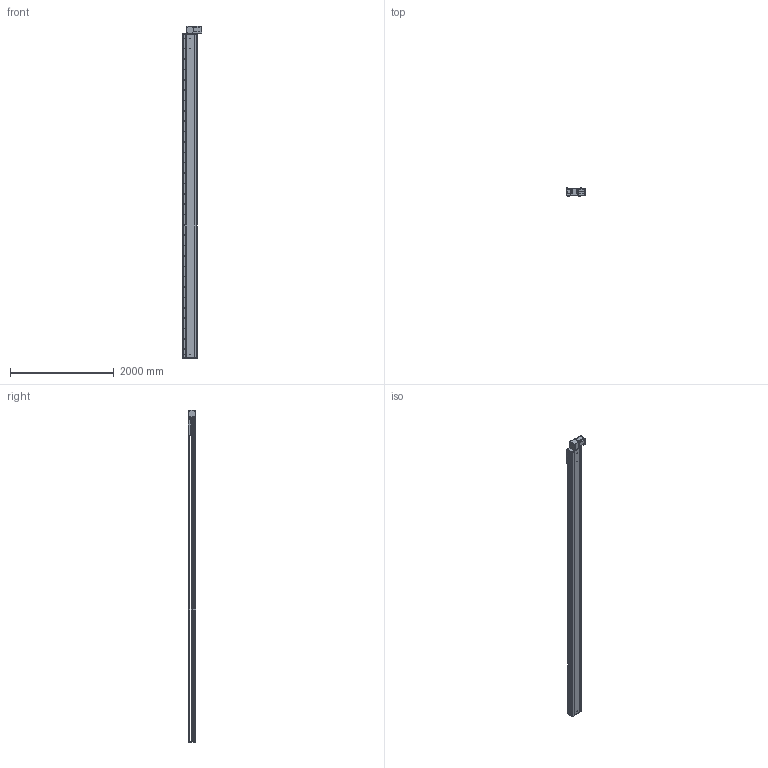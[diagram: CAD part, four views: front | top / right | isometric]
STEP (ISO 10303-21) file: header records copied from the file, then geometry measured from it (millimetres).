
FILE_DESCRIPTION (( 'STEP AP214' ), '1' );
FILE_NAME ('RTB28S-XX-5800-BL-M100-XX-C4.STEP', '2025-12-22T02:58:32', ( '' ), ( '' ), 'SwSTEP 2.0', 'SolidWorks 2018', '' );
FILE_SCHEMA (( 'AUTOMOTIVE_DESIGN' ));
Length unit declared in the file: millimetre
Products named in the file (4): RTB28S-GY-008^RTB28S-XX-XX-BL-M100-XX-C4; RTB28S-GY-011^RTB28S-XX-XX-BL-M100-XX-C4; RTB28S-XX-5800-BL-M100-XX-C4; RTB28S-GY-004^RTB28S-XX-XX-BL-M100-XX-C4
Assembly tree (3 placements, depth 2):
  RTB28S-XX-5800-BL-M100-XX-C4
    RTB28S-GY-011^RTB28S-XX-XX-BL-M100-XX-C4
    RTB28S-GY-004^RTB28S-XX-XX-BL-M100-XX-C4
    RTB28S-GY-008^RTB28S-XX-XX-BL-M100-XX-C4
Bounding box: 380.7 x 145 x 6407 mm (x, y, z)
Volume: 105203237.9 mm3; surface area: 9683093.3 mm2
Topology: 3 solids, 4 shells, 1028 faces, 2808 edges, 1808 vertices
Faces by surface type: cylinder 551, plane 393, cone 80, torus 4
Entity records: 41177 total; most frequent: CARTESIAN_POINT 8602, DIRECTION 6006, ORIENTED_EDGE 5552, EDGE_CURVE 2776, AXIS2_PLACEMENT_3D 2268, VERTEX_POINT 1808, VECTOR 1470, LINE 1470
